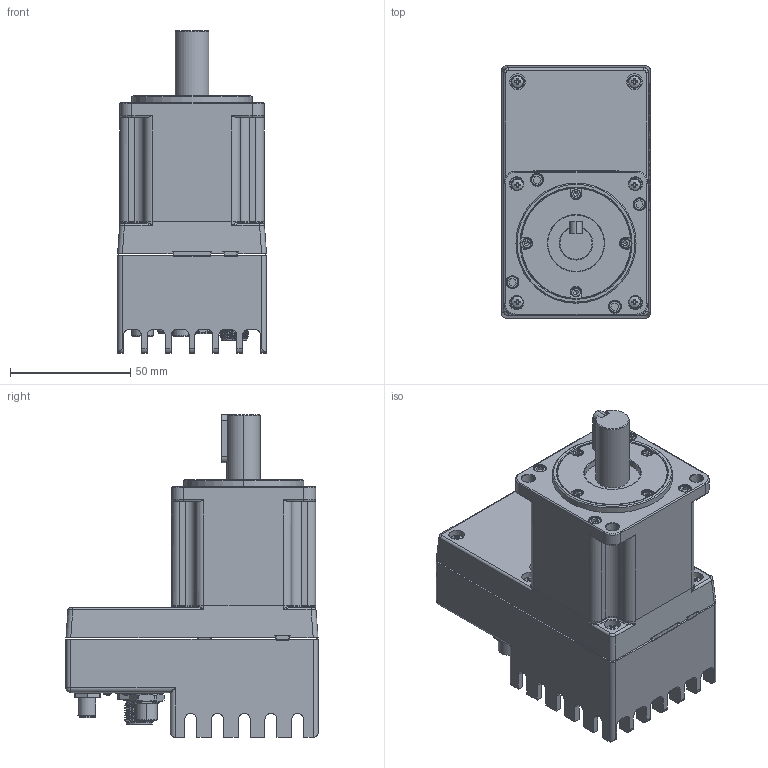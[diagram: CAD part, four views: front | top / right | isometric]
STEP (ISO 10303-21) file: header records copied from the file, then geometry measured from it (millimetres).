
FILE_DESCRIPTION (( 'STEP AP214' ), '1' );
FILE_NAME ('IM1-60SX3X5XX20000.STEP', '2024-02-05T10:53:19', ( '' ), ( '' ), 'SwSTEP 2.0', 'SolidWorks 2020', '' );
FILE_SCHEMA (( 'AUTOMOTIVE_DESIGN' ));
Length unit declared in the file: millimetre
Products named in the file (1): IM1-60SX3X5XX20000
Bounding box: 62 x 105 x 134.3 mm (x, y, z)
Surface area: 56402.3 mm2 (no closed solid volume)
Topology: 0 solids, 78 shells, 1136 faces, 4575 edges, 3488 vertices
Faces by surface type: plane 527, cylinder 368, cone 148, torus 41, bspline 37, sphere 15
Full cylindrical faces by diameter (mm): 0.5 x12, 1.5 x4, 1.6 x1, 6.6 x6, 7 x2, 9.9 x1, 10.7 x2, 11 x2, 14 x2, 20 x1
Entity records: 70388 total; most frequent: CARTESIAN_POINT 21092, ORIENTED_EDGE 7570, DIRECTION 7350, EDGE_CURVE 4490, VERTEX_POINT 3480, AXIS2_PLACEMENT_3D 2690, VECTOR 1970, LINE 1970
